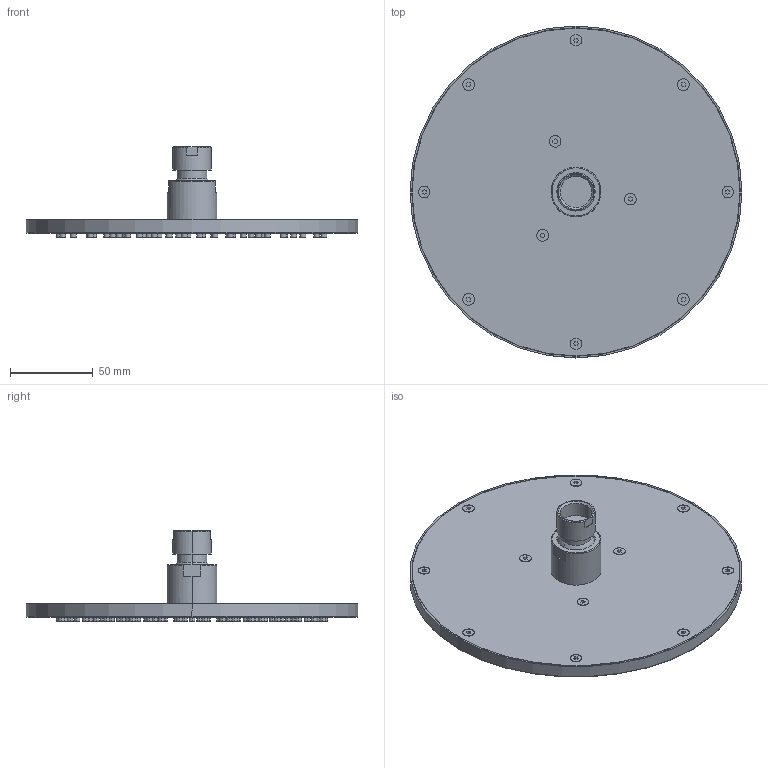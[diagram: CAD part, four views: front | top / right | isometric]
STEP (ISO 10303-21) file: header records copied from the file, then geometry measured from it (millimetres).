
FILE_DESCRIPTION (( 'STEP AP203' ), '1' );
FILE_NAME ('SFT20.STEP', '2024-03-04T15:44:37', ( '' ), ( '' ), 'SwSTEP 2.0', 'SolidWorks 2023', '' );
FILE_SCHEMA (( 'CONFIG_CONTROL_DESIGN' ));
Length unit declared in the file: millimetre
Products named in the file (1): SFT20
Bounding box: 200 x 200 x 54.5 mm (x, y, z)
Volume: 275722.6 mm3; surface area: 83652.3 mm2
Topology: 2 solids, 2 shells, 847 faces, 1749 edges, 1163 vertices
Faces by surface type: cylinder 500, plane 336, torus 7, sphere 2, cone 2
Entity records: 23111 total; most frequent: DIRECTION 4454, CARTESIAN_POINT 3948, ORIENTED_EDGE 3488, AXIS2_PLACEMENT_3D 1870, EDGE_CURVE 1744, VERTEX_POINT 1160, EDGE_LOOP 1106, CIRCLE 1022
